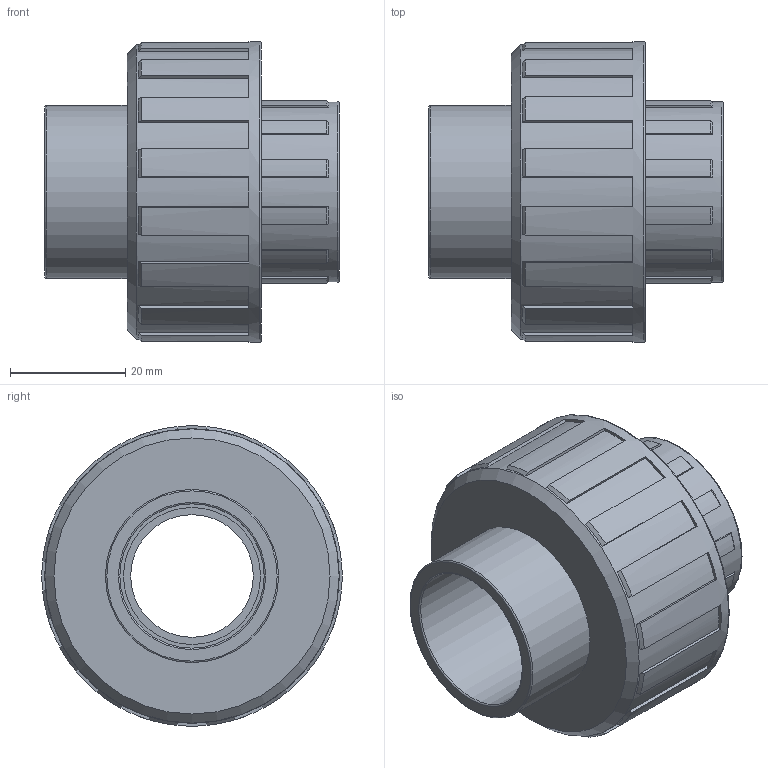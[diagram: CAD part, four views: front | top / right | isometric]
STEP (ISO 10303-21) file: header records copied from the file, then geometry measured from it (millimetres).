
FILE_DESCRIPTION(/* description */ ('PLASSON UNION+O RING THR-CEM 25-3/4"'),/* implementation_level */ '2;1');
FILE_NAME(/* name */ 'C:\Dropbox\KIMPROJECTS-Inventor\99-16-3568-Processing\PVC Catalog 2017\050802\050802025007.ipt.stp',/* time_stamp */ '2017-12-07T15:58:15+02:00',/* author */ ('KIM'),/* organization */ (''),/* preprocessor_version */ 'ST-DEVELOPER v15.6',/* originating_system */ 'Autodesk Inventor 2015',/* authorisation */ '');
FILE_SCHEMA (('AUTOMOTIVE_DESIGN { 1 0 10303 214 3 1 1 }'));
Length unit declared in the file: millimetre
Products named in the file (1): 050802025007
Bounding box: 51 x 52 x 52 mm (x, y, z)
Volume: 46134.3 mm3; surface area: 13960.4 mm2
Topology: 1 solids, 1 shells, 133 faces, 372 edges, 246 vertices
Faces by surface type: plane 79, cone 29, cylinder 20, torus 5
Full cylindrical faces by diameter (mm): 21.25 x1, 23.75 x1, 24.117 x1, 25 x1, 30 x1, 31.25 x1, 50.96 x1, 52 x1
Entity records: 4240 total; most frequent: DIRECTION 754, CARTESIAN_POINT 732, ORIENTED_EDGE 710, EDGE_CURVE 355, AXIS2_PLACEMENT_3D 265, VERTEX_POINT 243, LINE 224, VECTOR 224
